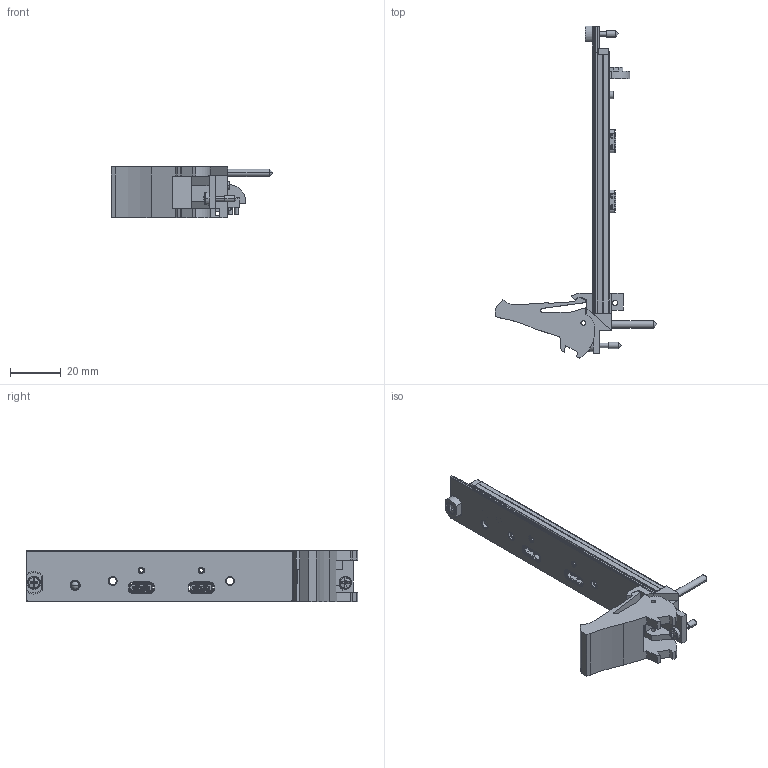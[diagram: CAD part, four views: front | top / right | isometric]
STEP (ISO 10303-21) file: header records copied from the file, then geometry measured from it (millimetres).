
FILE_DESCRIPTION((''),'2;1');
FILE_NAME('CCA_PXIE-8301-SW','2017-09-15T',('gvillanu'),(''),'CREO PARAMETRIC BY PTC INC, 2015380','CREO PARAMETRIC BY PTC INC, 2015380','');
FILE_SCHEMA(('CONFIG_CONTROL_DESIGN'));
Length unit declared in the file: inch
Products named in the file (1): CCA_PXIE-8301-SW
Bounding box: 63.53 x 130.5 x 20.26 mm (x, y, z)
Surface area: 19917.6 mm2 (no closed solid volume)
Topology: 0 solids, 100 shells, 1413 faces, 5928 edges, 4385 vertices
Faces by surface type: plane 896, cylinder 411, cone 82, torus 12, sphere 6, bspline 6
Entity records: 61246 total; most frequent: CARTESIAN_POINT 12889, DIRECTION 10014, ORIENTED_EDGE 8928, EDGE_CURVE 5922, VERTEX_POINT 4385, VECTOR 4254, LINE 4254, AXIS2_PLACEMENT_3D 2880
